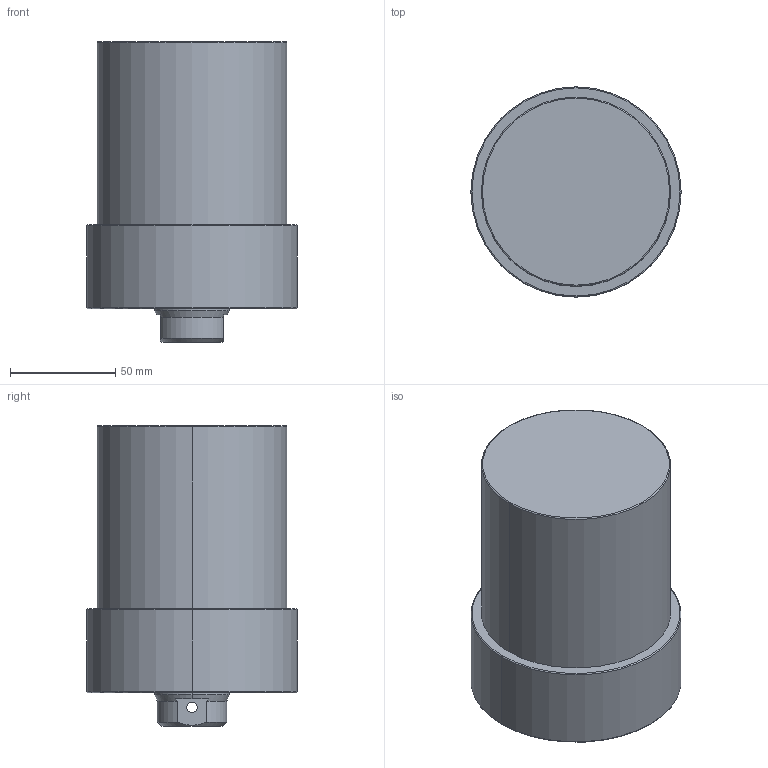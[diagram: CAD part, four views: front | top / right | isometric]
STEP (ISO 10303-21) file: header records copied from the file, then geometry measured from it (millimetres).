
FILE_DESCRIPTION (( 'STEP AP203' ), '1' );
FILE_NAME ('CLLU-090GB-065.STEP', '2020-01-11T01:00:43', ( '' ), ( '' ), 'SwSTEP 2.0', 'SolidWorks 2015', '' );
FILE_SCHEMA (( 'CONFIG_CONTROL_DESIGN' ));
Length unit declared in the file: millimetre
Products named in the file (1): CLLU-090GB-065
Bounding box: 100 x 100 x 143 mm (x, y, z)
Volume: 862929.9 mm3; surface area: 59571.2 mm2
Topology: 1 solids, 1 shells, 66 faces, 154 edges, 87 vertices
Faces by surface type: cylinder 26, cone 24, plane 10, torus 6
Entity records: 2029 total; most frequent: CARTESIAN_POINT 458, DIRECTION 342, ORIENTED_EDGE 288, EDGE_CURVE 144, AXIS2_PLACEMENT_3D 143, VERTEX_POINT 87, EDGE_LOOP 77, CIRCLE 76
